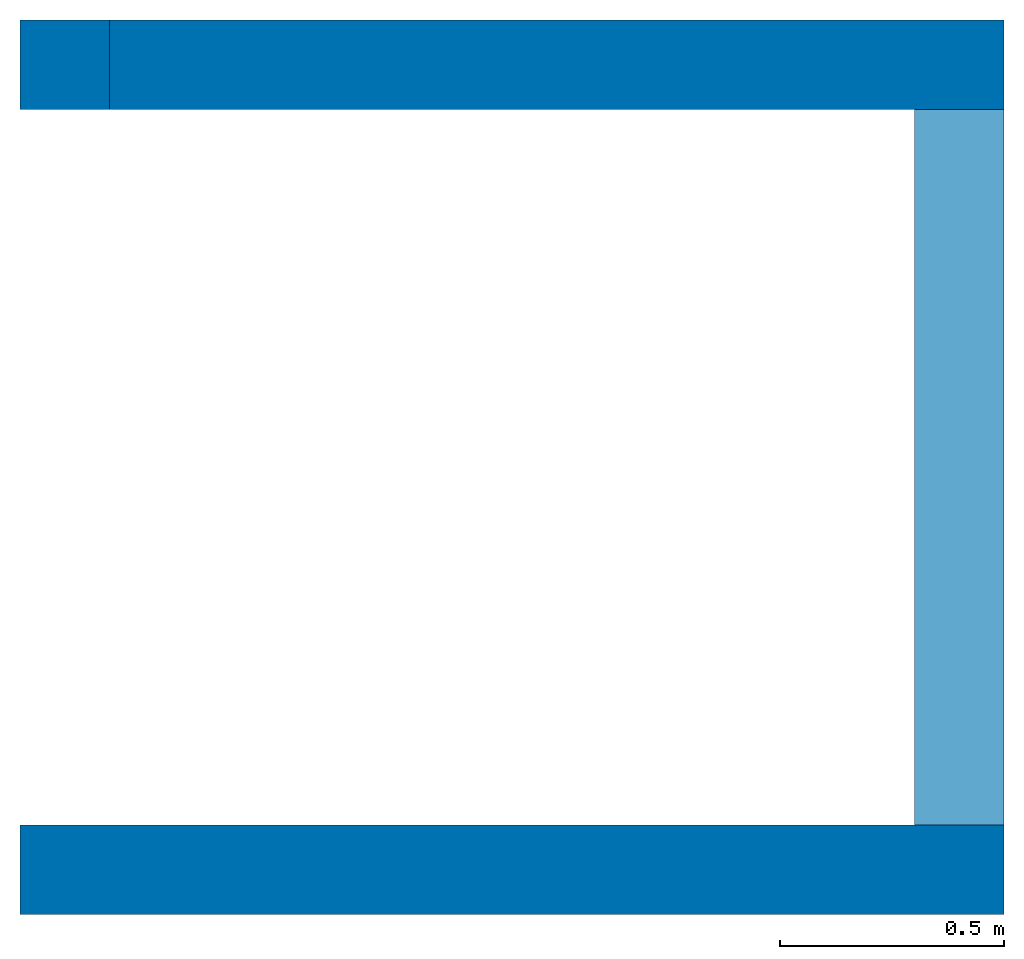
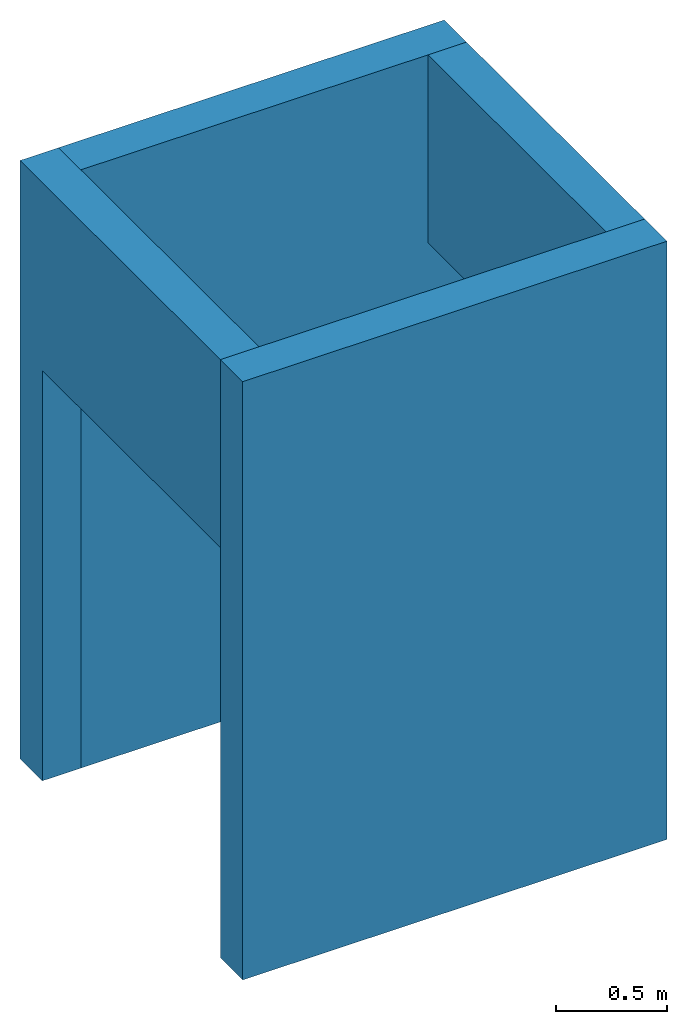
# One storey: 4 walls, 6 openings.
"""IFC2X3 building model written with IfcOpenShell, lengths in metres."""

from ifc_helpers import new_model, entity, si_unit, converted_unit, derived_unit, direction, frame, frame_2d, origin, place, context, subcontext, project, spatial, rectangle, extrude, material, layer, layer_set, layer_usage, type_object, element, save


model = new_model("IFC2X3")

# Units and contexts
model_context = context("Model", 3, precision=1e-05, world=origin(), true_north=direction((6.12303176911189e-17, 1.0)))
body_context = subcontext(model_context, "Body", "Model", "MODEL_VIEW")
ifc_project = project(units=[si_unit("LENGTHUNIT", "METRE"), si_unit("AREAUNIT", "SQUARE_METRE"), si_unit("VOLUMEUNIT", "CUBIC_METRE"), converted_unit("PLANEANGLEUNIT", "DEGREE", entity("IfcRatioMeasure", 0.0174532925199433), si_unit("PLANEANGLEUNIT", "RADIAN"), dimensions=[0, 0, 0, 0, 0, 0, 0]), si_unit("MASSUNIT", "GRAM", prefix="KILO"), derived_unit("MASSDENSITYUNIT", [(si_unit("MASSUNIT", "GRAM", prefix="KILO"), 1), (si_unit("LENGTHUNIT", "METRE"), -3)]), si_unit("TIMEUNIT", "SECOND"), si_unit("FREQUENCYUNIT", "HERTZ"), si_unit("THERMODYNAMICTEMPERATUREUNIT", "DEGREE_CELSIUS"), derived_unit("THERMALTRANSMITTANCEUNIT", [(si_unit("MASSUNIT", "GRAM", prefix="KILO"), 1), (si_unit("THERMODYNAMICTEMPERATUREUNIT", "KELVIN"), -1), (si_unit("TIMEUNIT", "SECOND"), -3)]), derived_unit("VOLUMETRICFLOWRATEUNIT", [(si_unit("LENGTHUNIT", "METRE"), 3), (si_unit("TIMEUNIT", "SECOND"), -1)]), si_unit("ELECTRICCURRENTUNIT", "AMPERE"), si_unit("ELECTRICVOLTAGEUNIT", "VOLT"), si_unit("POWERUNIT", "WATT"), si_unit("FORCEUNIT", "NEWTON"), si_unit("ILLUMINANCEUNIT", "LUX"), si_unit("LUMINOUSFLUXUNIT", "LUMEN"), si_unit("LUMINOUSINTENSITYUNIT", "CANDELA"), derived_unit("USERDEFINED", [(si_unit("MASSUNIT", "GRAM", prefix="KILO"), -1), (si_unit("LENGTHUNIT", "METRE"), -2), (si_unit("TIMEUNIT", "SECOND"), 3), (si_unit("LUMINOUSFLUXUNIT", "LUMEN"), 1)]), derived_unit("LINEARVELOCITYUNIT", [(si_unit("LENGTHUNIT", "METRE"), 1), (si_unit("TIMEUNIT", "SECOND"), -1)]), si_unit("PRESSUREUNIT", "PASCAL"), derived_unit("USERDEFINED", [(si_unit("LENGTHUNIT", "METRE"), -2), (si_unit("MASSUNIT", "GRAM", prefix="KILO"), 1), (si_unit("TIMEUNIT", "SECOND"), -2)])], contexts=[model_context])

# Site, building, storey
site_placement = place(None, origin())
site = spatial("IfcSite", under=ifc_project, at=site_placement, Name="Default", CompositionType="ELEMENT")
building_placement = place(site_placement, origin())
building = spatial("IfcBuilding", under=site, at=building_placement, CompositionType="ELEMENT")
storey_placement = place(building_placement, frame((0.0, 0.0, 4.27)))
storey = spatial("IfcBuildingStorey", under=building, at=storey_placement, Name="01", CompositionType="ELEMENT", Elevation=4.27)

# Wall, openings
ifc_material = material(Name="Mur par défaut")
ifc_layer = layer(ifc_material, 0.2)
ifc_layer_set = layer_set([ifc_layer], Name="Basic Wall:Mur BA - 20cm")
ifc_layer_usage_1 = layer_usage(ifc_layer_set, "AXIS2", "NEGATIVE", 0.1)
wall_type = type_object("IfcWallType", Name="Basic Wall:Mur BA - 20cm", PredefinedType="STANDARD", material=ifc_layer_set)
wall_1_placement = place(storey_placement, frame((47.9497436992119, -185.206488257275, 0.0), z_axis=(0.0, 0.0, 1.0), x_axis=(-1.0, 0.0, 0.0)))
wall_1 = element("IfcWallStandardCase", 1, at=wall_1_placement, inside=storey, type_object=wall_type, material=ifc_layer_usage_1, Name="Basic Wall:Mur BA - 20cm", ObjectType="Basic Wall:Mur BA - 20cm", context=body_context, shape_type="SweptSolid", body=[
    extrude(rectangle(XDim=1.99999999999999, YDim=0.200000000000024, at=frame_2d((0.999999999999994, 3.4555691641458e-15), x_axis=(-1.0, 0.0))), origin(), (0.0, 0.0, 1.0), 3.28),
])
opening_1_placement = place(wall_1_placement, origin())
element("IfcOpeningElement", 2, at=opening_1_placement, cuts=wall_1, Name="Basic Wall:Mur BA - 20cm", ObjectType="Opening", context=body_context, shape_type="SweptSolid", body=[
    extrude(rectangle(XDim=2.24999999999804, YDim=0.199999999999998, at=frame_2d((-4.32986979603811e-15, 0.0), x_axis=(0.0, 1.0))), frame((2.09999999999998, 0.0999999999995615, 1.12499999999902), z_axis=(0.0, 1.0, 0.0), x_axis=(-1.0, 0.0, 0.0)), (0.0, 0.0, 1.0), 1.59999999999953),
])
opening_2_placement = place(wall_1_placement, origin())
element("IfcOpeningElement", 3, at=opening_2_placement, cuts=wall_1, Name="Basic Wall:Mur BA - 20cm", ObjectType="Opening", context=body_context, shape_type="SweptSolid", body=[
    extrude(rectangle(XDim=2.24999999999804, YDim=0.199999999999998, at=frame_2d((-4.32986979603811e-15, 0.0), x_axis=(0.0, 1.0))), frame((0.100000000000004, 0.0999999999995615, 1.12499999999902), z_axis=(0.0, 1.0, 0.0), x_axis=(1.0, 0.0, 0.0)), (0.0, 0.0, 1.0), 1.59999999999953),
])

# Wall, opening
ifc_layer_usage_2 = layer_usage(ifc_layer_set, "AXIS2", "NEGATIVE", 0.1)
wall_2_placement = place(storey_placement, frame((45.8497436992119, -185.106488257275, 0.0), z_axis=(0.0, 0.0, 1.0), x_axis=(0.0, -1.0, 0.0)))
wall_2 = element("IfcWallStandardCase", 4, at=wall_2_placement, inside=storey, type_object=wall_type, material=ifc_layer_usage_2, Name="Basic Wall:Mur BA - 20cm", ObjectType="Basic Wall:Mur BA - 20cm", context=body_context, shape_type="SweptSolid", body=[
    extrude(rectangle(XDim=1.79999999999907, YDim=0.200000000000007, at=frame_2d((0.899999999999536, 0.0), x_axis=(-1.0, 0.0))), origin(), (0.0, 0.0, 1.0), 3.28),
])
opening_3_placement = place(wall_2_placement, frame((-185.106488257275, -45.8497436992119, 0.0), z_axis=(0.0, 0.0, 1.0), x_axis=(0.0, 1.0, 0.0)))
element("IfcOpeningElement", 5, at=opening_3_placement, cuts=wall_2, Name="Basic Wall:Mur BA - 20cm", ObjectType="Opening", context=body_context, shape_type="SweptSolid", body=[
    extrude(rectangle(XDim=2.24999999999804, YDim=1.59999999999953, at=frame_2d((1.73194791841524e-14, 0.0), x_axis=(0.0, 1.0))), frame((44.2257436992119, -186.106488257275, 1.12499999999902), z_axis=(1.0, 0.0, 0.0), x_axis=(0.0, 1.0, 0.0)), (0.0, 0.0, 1.0), 3.048),
])

# Wall, openings
ifc_layer_usage_3 = layer_usage(ifc_layer_set, "AXIS2", "NEGATIVE", 0.1)
wall_3_placement = place(storey_placement, frame((45.7497436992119, -187.006488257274, 0.0)))
wall_3 = element("IfcWallStandardCase", 6, at=wall_3_placement, inside=storey, type_object=wall_type, material=ifc_layer_usage_3, Name="Basic Wall:Mur BA - 20cm", ObjectType="Basic Wall:Mur BA - 20cm", context=body_context, shape_type="SweptSolid", body=[
    extrude(rectangle(XDim=2.19999999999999, YDim=0.200000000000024, at=frame_2d((1.09999999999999, 0.0), x_axis=(-1.0, 0.0))), origin(), (0.0, 0.0, 1.0), 3.28),
])
opening_4_placement = place(wall_3_placement, origin())
element("IfcOpeningElement", 7, at=opening_4_placement, cuts=wall_3, Name="Basic Wall:Mur BA - 20cm", ObjectType="Opening", context=body_context, shape_type="SweptSolid", body=[
    extrude(rectangle(XDim=2.24999999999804, YDim=0.199999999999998, at=frame_2d((-4.32986979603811e-15, 0.0), x_axis=(0.0, 1.0))), frame((0.100000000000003, 0.100000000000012, 1.12499999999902), z_axis=(0.0, 1.0, 0.0), x_axis=(1.0, 0.0, 0.0)), (0.0, 0.0, 1.0), 1.59999999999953),
])
opening_5_placement = place(wall_3_placement, origin())
element("IfcOpeningElement", 8, at=opening_5_placement, cuts=wall_3, Name="Basic Wall:Mur BA - 20cm", ObjectType="Opening", context=body_context, shape_type="SweptSolid", body=[
    extrude(rectangle(XDim=2.24999999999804, YDim=0.199999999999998, at=frame_2d((-4.32986979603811e-15, 0.0), x_axis=(0.0, 1.0))), frame((2.09999999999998, 0.100000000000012, 1.12499999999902), z_axis=(0.0, 1.0, 0.0), x_axis=(-1.0, 0.0, 0.0)), (0.0, 0.0, 1.0), 1.59999999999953),
])

# Wall, opening
ifc_layer_usage_4 = layer_usage(ifc_layer_set, "AXIS2", "NEGATIVE", 0.1)
wall_4_placement = place(storey_placement, frame((47.8497436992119, -186.906488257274, 2.24999999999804), z_axis=(0.0, 0.0, 1.0), x_axis=(0.0, 1.0, 0.0)))
wall_4 = element("IfcWallStandardCase", 9, at=wall_4_placement, inside=storey, type_object=wall_type, material=ifc_layer_usage_4, Name="Basic Wall:Mur BA - 20cm", ObjectType="Basic Wall:Mur BA - 20cm", context=body_context, shape_type="SweptSolid", body=[
    extrude(rectangle(XDim=1.59999999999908, YDim=0.200000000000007, at=frame_2d((0.799999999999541, 0.0), x_axis=(-1.0, 0.0))), origin(), (0.0, 0.0, 1.0), 1.03000000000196),
])
opening_6_placement = place(wall_4_placement, frame((186.906488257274, 47.8497436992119, -2.24999999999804), z_axis=(0.0, 0.0, 1.0), x_axis=(0.0, -1.0, 0.0)))
element("IfcOpeningElement", 10, at=opening_6_placement, cuts=wall_4, Name="Basic Wall:Mur BA - 20cm", ObjectType="Opening", context=body_context, shape_type="SweptSolid", body=[
    extrude(rectangle(XDim=2.24999999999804, YDim=1.59999999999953, at=frame_2d((-1.73194791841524e-14, 0.0), x_axis=(0.0, 1.0))), frame((49.4737436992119, -186.106488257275, 1.12499999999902), z_axis=(-1.0, 0.0, 0.0), x_axis=(0.0, -1.0, 0.0)), (0.0, 0.0, 1.0), 3.048),
])

save(model, "model.ifc")
